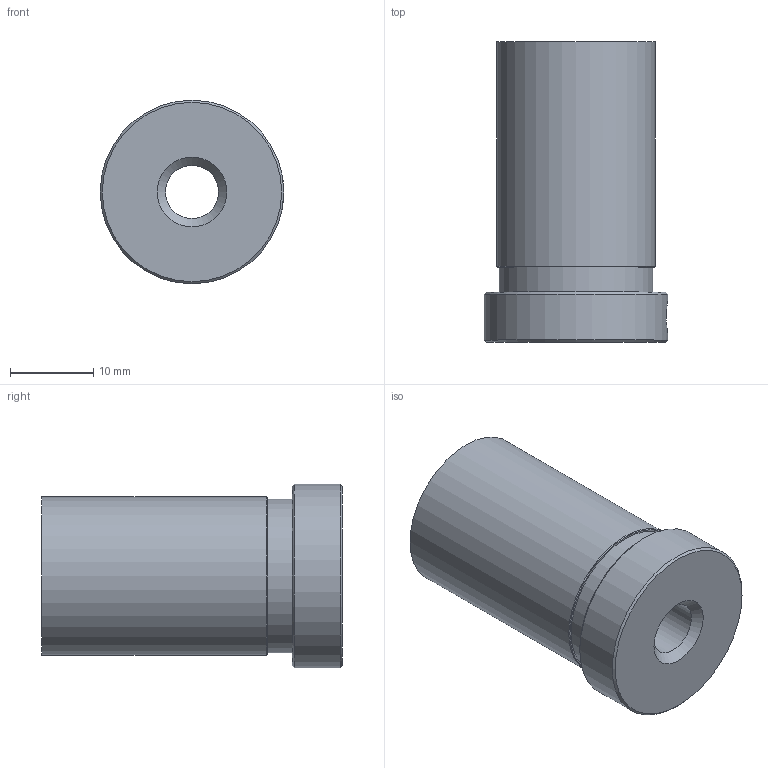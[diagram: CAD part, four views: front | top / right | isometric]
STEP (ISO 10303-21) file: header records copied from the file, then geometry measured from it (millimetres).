
FILE_DESCRIPTION (( 'STEP AP214' ), '1' );
FILE_NAME ('SP3-4.36.STEP', '2023-03-14T08:40:04', ( '' ), ( '' ), 'SwSTEP 2.0', 'SolidWorks 2022', '' );
FILE_SCHEMA (( 'AUTOMOTIVE_DESIGN' ));
Length unit declared in the file: millimetre
Products named in the file (1): SP3-4.36
Bounding box: 22 x 36 x 22 mm (x, y, z)
Volume: 8026.6 mm3; surface area: 3998.6 mm2
Topology: 1 solids, 1 shells, 20 faces, 38 edges, 24 vertices
Faces by surface type: cylinder 7, cone 7, plane 6
Full cylindrical faces by diameter (mm): 4 x1, 6.35 x2, 12.7 x1, 18.45 x1, 19.05 x1, 22 x1
Entity records: 494 total; most frequent: CARTESIAN_POINT 116, DIRECTION 80, AXIS2_PLACEMENT_3D 40, EDGE_LOOP 40, ORIENTED_EDGE 40, FACE_OUTER_BOUND 27, VERTEX_POINT 20, EDGE_CURVE 20
